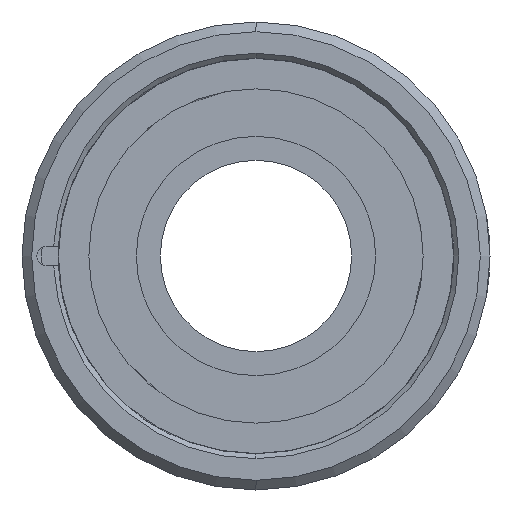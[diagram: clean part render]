
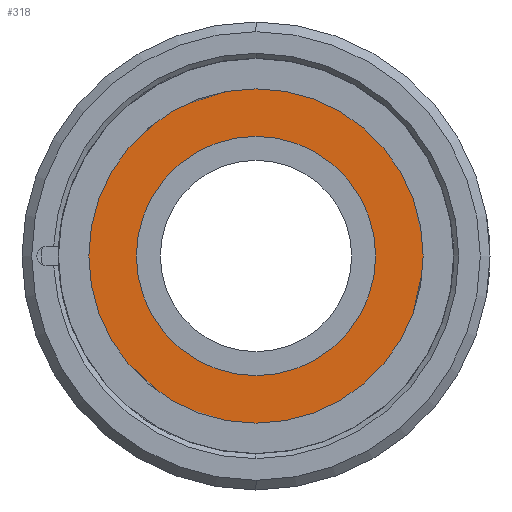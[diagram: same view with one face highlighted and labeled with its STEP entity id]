
A CAD part, front view. The second image highlights one B-rep face of the part: STEP entity #318.
In plain terms, the highlighted planar face has unit normal (0, -1, 0).
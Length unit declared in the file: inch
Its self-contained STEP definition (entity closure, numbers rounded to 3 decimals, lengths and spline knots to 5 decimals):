
#202 = ORIENTED_EDGE ( 'NONE', *, *, #4541, .F. ) ;
#307 = VERTEX_POINT ( 'NONE', #4989 ) ;
#318 = ADVANCED_FACE ( 'NONE', ( #5279, #801 ), #5422, .T. ) ;
#473 = VERTEX_POINT ( 'NONE', #4647 ) ;
#667 = DIRECTION ( 'NONE',  ( 0., 0., 1. ) ) ;
#755 = VERTEX_POINT ( 'NONE', #3774 ) ;
#801 = FACE_BOUND ( 'NONE', #914, .T. ) ;
#802 = VERTEX_POINT ( 'NONE', #2566 ) ;
#914 = EDGE_LOOP ( 'NONE', ( #202, #4298 ) ) ;
#970 = ORIENTED_EDGE ( 'NONE', *, *, #4180, .T. ) ;
#984 = CARTESIAN_POINT ( 'NONE',  ( 0., 0.406, 0. ) ) ;
#1163 = DIRECTION ( 'NONE',  ( 0., -1., 0. ) ) ;
#1229 = CIRCLE ( 'NONE', #3280, 0.49213 ) ;
#1307 = AXIS2_PLACEMENT_3D ( 'NONE', #2816, #3250, #667 ) ;
#1387 = AXIS2_PLACEMENT_3D ( 'NONE', #3758, #1163, #4195 ) ;
#1409 = DIRECTION ( 'NONE',  ( 0., 0., 1. ) ) ;
#1478 = CARTESIAN_POINT ( 'NONE',  ( 0., 0.406, 0. ) ) ;
#1916 = DIRECTION ( 'NONE',  ( 0., 0., 1. ) ) ;
#1990 = ORIENTED_EDGE ( 'NONE', *, *, #3782, .T. ) ;
#2368 = DIRECTION ( 'NONE',  ( 0., -1., 0. ) ) ;
#2566 = CARTESIAN_POINT ( 'NONE',  ( 0., 0.406, -0.72825 ) ) ;
#2762 = EDGE_CURVE ( 'NONE', #755, #307, #4737, .T. ) ;
#2787 = CIRCLE ( 'NONE', #1387, 0.72825 ) ;
#2816 = CARTESIAN_POINT ( 'NONE',  ( -0.72825, 0.406, 0. ) ) ;
#3096 = AXIS2_PLACEMENT_3D ( 'NONE', #1478, #4515, #1916 ) ;
#3199 = EDGE_LOOP ( 'NONE', ( #970, #1990 ) ) ;
#3250 = DIRECTION ( 'NONE',  ( 0., -1., 0. ) ) ;
#3280 = AXIS2_PLACEMENT_3D ( 'NONE', #4964, #2368, #5400 ) ;
#3603 = CIRCLE ( 'NONE', #3096, 0.72825 ) ;
#3758 = CARTESIAN_POINT ( 'NONE',  ( 0., 0.406, 0. ) ) ;
#3774 = CARTESIAN_POINT ( 'NONE',  ( 0., 0.406, -0.49213 ) ) ;
#3782 = EDGE_CURVE ( 'NONE', #802, #473, #2787, .T. ) ;
#4007 = DIRECTION ( 'NONE',  ( 0., -1., 0. ) ) ;
#4180 = EDGE_CURVE ( 'NONE', #473, #802, #3603, .T. ) ;
#4195 = DIRECTION ( 'NONE',  ( 0., 0., 1. ) ) ;
#4298 = ORIENTED_EDGE ( 'NONE', *, *, #2762, .F. ) ;
#4438 = AXIS2_PLACEMENT_3D ( 'NONE', #984, #4007, #1409 ) ;
#4515 = DIRECTION ( 'NONE',  ( 0., -1., 0. ) ) ;
#4541 = EDGE_CURVE ( 'NONE', #307, #755, #1229, .T. ) ;
#4647 = CARTESIAN_POINT ( 'NONE',  ( 0., 0.406, 0.72825 ) ) ;
#4737 = CIRCLE ( 'NONE', #4438, 0.49213 ) ;
#4964 = CARTESIAN_POINT ( 'NONE',  ( 0., 0.406, 0. ) ) ;
#4989 = CARTESIAN_POINT ( 'NONE',  ( 0., 0.406, 0.49213 ) ) ;
#5279 = FACE_OUTER_BOUND ( 'NONE', #3199, .T. ) ;
#5400 = DIRECTION ( 'NONE',  ( 0., 0., 1. ) ) ;
#5422 = PLANE ( 'NONE',  #1307 ) ;
